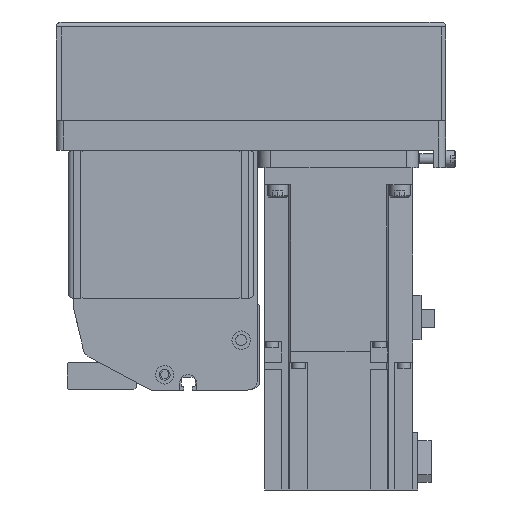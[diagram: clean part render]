
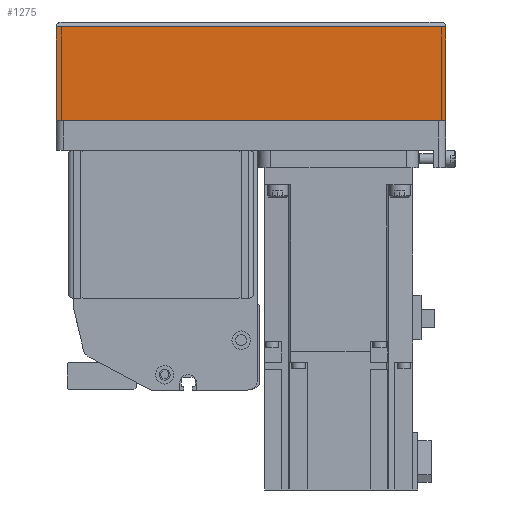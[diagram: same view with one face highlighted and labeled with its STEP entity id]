
A CAD part, left-side view. The second image highlights one B-rep face of the part: STEP entity #1275.
In plain terms, the highlighted planar face has unit normal (-1, 0, 0) as drawn and (0, -1, 0) by its records, which use the part's own axes.
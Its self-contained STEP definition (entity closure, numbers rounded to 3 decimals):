
#1275 = ADVANCED_FACE( '', ( #3388 ), #3389, .T. );
#3388 = FACE_OUTER_BOUND( '', #6633, .T. );
#3389 = PLANE( '', #6634 );
#6633 = EDGE_LOOP( '', ( #10206, #10207, #10208, #10209 ) );
#6634 = AXIS2_PLACEMENT_3D( '', #10210, #10211, #10212 );
#10206 = ORIENTED_EDGE( '', *, *, #18723, .F. );
#10207 = ORIENTED_EDGE( '', *, *, #18724, .F. );
#10208 = ORIENTED_EDGE( '', *, *, #18725, .T. );
#10209 = ORIENTED_EDGE( '', *, *, #18726, .T. );
#10210 = CARTESIAN_POINT( '', ( -158., -39., -12.1 ) );
#10211 = DIRECTION( '', ( 0., -1., 0. ) );
#10212 = DIRECTION( '', ( 0., 0., -1. ) );
#18723 = EDGE_CURVE( '', #22376, #22377, #22378, .T. );
#18724 = EDGE_CURVE( '', #22379, #22376, #22380, .T. );
#18725 = EDGE_CURVE( '', #22379, #22381, #22382, .T. );
#18726 = EDGE_CURVE( '', #22381, #22377, #22383, .T. );
#22376 = VERTEX_POINT( '', #27612 );
#22377 = VERTEX_POINT( '', #27613 );
#22378 = LINE( '', #27614, #27615 );
#22379 = VERTEX_POINT( '', #27616 );
#22380 = LINE( '', #27617, #27618 );
#22381 = VERTEX_POINT( '', #27619 );
#22382 = LINE( '', #27620, #27621 );
#22383 = LINE( '', #27622, #27623 );
#27612 = CARTESIAN_POINT( '', ( 0., -39., -12.1 ) );
#27613 = CARTESIAN_POINT( '', ( 0., -39., -50. ) );
#27614 = CARTESIAN_POINT( '', ( 0., -39., -12.1 ) );
#27615 = VECTOR( '', #34694, 1000. );
#27616 = CARTESIAN_POINT( '', ( -158., -39., -12.1 ) );
#27617 = CARTESIAN_POINT( '', ( -158., -39., -12.1 ) );
#27618 = VECTOR( '', #34695, 1000. );
#27619 = CARTESIAN_POINT( '', ( -158., -39., -50. ) );
#27620 = CARTESIAN_POINT( '', ( -158., -39., -12.1 ) );
#27621 = VECTOR( '', #34696, 1000. );
#27622 = CARTESIAN_POINT( '', ( -158., -39., -50. ) );
#27623 = VECTOR( '', #34697, 1000. );
#34694 = DIRECTION( '', ( 0., 0., -1. ) );
#34695 = DIRECTION( '', ( 1., 0., 0. ) );
#34696 = DIRECTION( '', ( 0., 0., -1. ) );
#34697 = DIRECTION( '', ( 1., 0., 0. ) );
